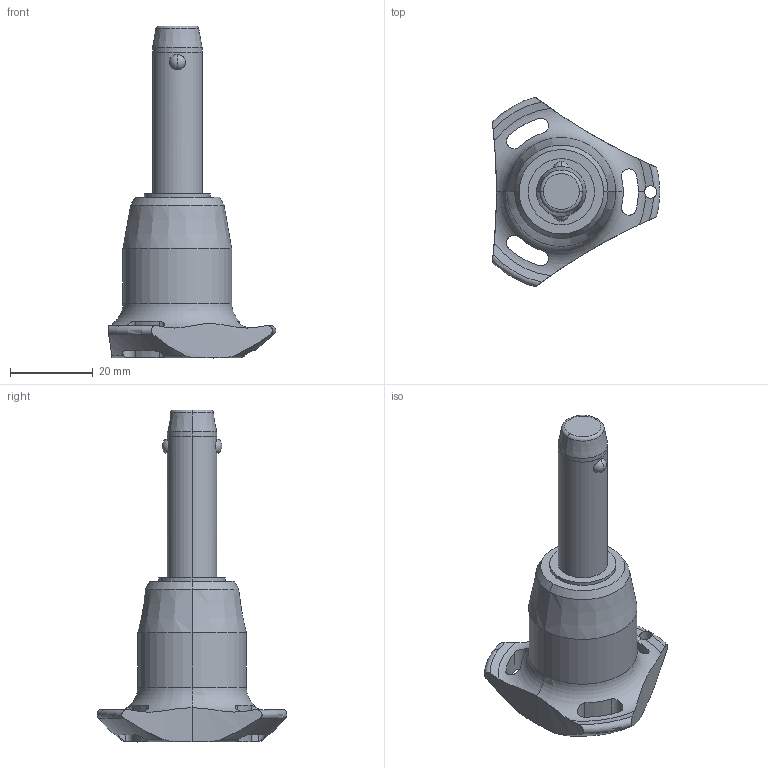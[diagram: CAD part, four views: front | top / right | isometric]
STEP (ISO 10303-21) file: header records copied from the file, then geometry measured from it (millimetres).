
FILE_DESCRIPTION (( 'STEP AP203' ), '1' );
FILE_NAME ('QR1716.M12-030-T.step', '2025-11-13T10:35:34', ( '' ), ( '' ), 'SwSTEP 2.0', 'SolidWorks 2019', '' );
FILE_SCHEMA (( 'CONFIG_CONTROL_DESIGN' ));
Length unit declared in the file: millimetre
Products named in the file (1): QR1716.M12-030-T
Bounding box: 40.5 x 45.88 x 80.3 mm (x, y, z)
Volume: 26527.7 mm3; surface area: 7468.9 mm2
Topology: 1 solids, 1 shells, 68 faces, 184 edges, 117 vertices
Faces by surface type: cylinder 32, cone 14, torus 11, sphere 6, plane 5
Entity records: 2942 total; most frequent: CARTESIAN_POINT 1186, ORIENTED_EDGE 368, DIRECTION 345, EDGE_CURVE 184, AXIS2_PLACEMENT_3D 154, VERTEX_POINT 117, CIRCLE 85, EDGE_LOOP 75
